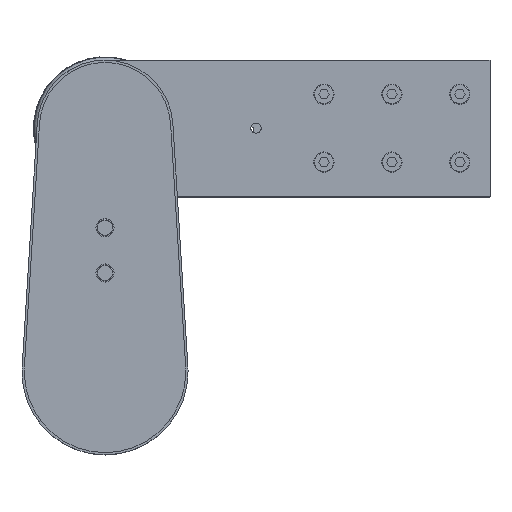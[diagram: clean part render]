
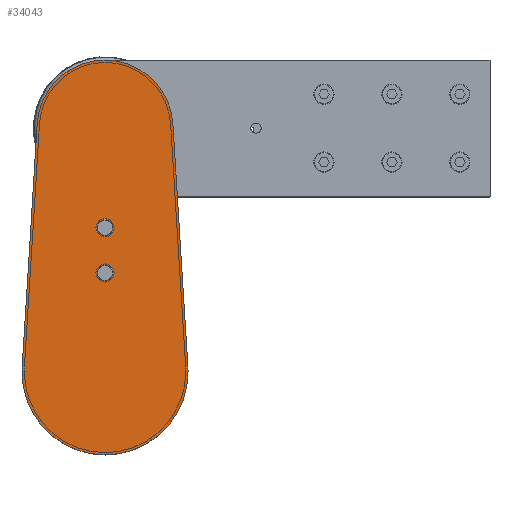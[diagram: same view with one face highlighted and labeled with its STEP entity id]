
A CAD part, top view. The second image highlights one B-rep face of the part: STEP entity #34043.
In plain terms, the highlighted planar face has unit normal (0, 0, 1) as drawn and (0, 0, -1) by its records, which use the part's own axes.
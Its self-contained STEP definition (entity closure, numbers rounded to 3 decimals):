
#1956 = VERTEX_POINT ( 'NONE', #26247 ) ;
#2250 = VERTEX_POINT ( 'NONE', #26394 ) ;
#2280 = VERTEX_POINT ( 'NONE', #26409 ) ;
#2322 = VERTEX_POINT ( 'NONE', #26440 ) ;
#2340 = VERTEX_POINT ( 'NONE', #26458 ) ;
#2368 = VERTEX_POINT ( 'NONE', #26486 ) ;
#2399 = VERTEX_POINT ( 'NONE', #26517 ) ;
#2463 = VERTEX_POINT ( 'NONE', #26581 ) ;
#2468 = VERTEX_POINT ( 'NONE', #26586 ) ;
#2469 = VERTEX_POINT ( 'NONE', #26587 ) ;
#12837 = ORIENTED_EDGE ( 'NONE', *, *, #51650, .F. ) ;
#12838 = ORIENTED_EDGE ( 'NONE', *, *, #51691, .F. ) ;
#12839 = ORIENTED_EDGE ( 'NONE', *, *, #51654, .F. ) ;
#12840 = ORIENTED_EDGE ( 'NONE', *, *, #51692, .F. ) ;
#12841 = ORIENTED_EDGE ( 'NONE', *, *, #51680, .F. ) ;
#12842 = ORIENTED_EDGE ( 'NONE', *, *, #51689, .F. ) ;
#12843 = ORIENTED_EDGE ( 'NONE', *, *, #51667, .F. ) ;
#12844 = ORIENTED_EDGE ( 'NONE', *, *, #51671, .F. ) ;
#12845 = ORIENTED_EDGE ( 'NONE', *, *, #51688, .F. ) ;
#12846 = ORIENTED_EDGE ( 'NONE', *, *, #51684, .F. ) ;
#14701 = DIRECTION ( 'NONE',  ( 0., 0., 1. ) ) ;
#14704 = CARTESIAN_POINT ( 'NONE',  ( 0., 161.5, 0. ) ) ;
#14705 = FACE_BOUND ( 'NONE', #48353, .T. ) ;
#14707 = FACE_BOUND ( 'NONE', #48363, .T. ) ;
#14708 = FACE_OUTER_BOUND ( 'NONE', #48361, .T. ) ;
#14709 = PLANE ( 'NONE',  #25266 ) ;
#14711 = DIRECTION ( 'NONE',  ( 1., 0., 0. ) ) ;
#17232 = CARTESIAN_POINT ( 'NONE',  ( 0., 95.5, 0. ) ) ;
#17234 = DIRECTION ( 'NONE',  ( 0., 0., -1. ) ) ;
#17235 = DIRECTION ( 'NONE',  ( 1., 0., 0. ) ) ;
#17257 = CARTESIAN_POINT ( 'NONE',  ( 0., 65.5, 0. ) ) ;
#17259 = DIRECTION ( 'NONE',  ( 0., 0., -1. ) ) ;
#17260 = DIRECTION ( 'NONE',  ( 1., 0., 0. ) ) ;
#17336 = CARTESIAN_POINT ( 'NONE',  ( 0., 0., 0. ) ) ;
#17338 = DIRECTION ( 'NONE',  ( 0., 0., 1. ) ) ;
#17340 = DIRECTION ( 'NONE',  ( 1., 0., 0. ) ) ;
#17359 = CARTESIAN_POINT ( 'NONE',  ( 0., 0., 0. ) ) ;
#17360 = DIRECTION ( 'NONE',  ( 0., 0., 1. ) ) ;
#17361 = DIRECTION ( 'NONE',  ( 1., 0., 0. ) ) ;
#17412 = CARTESIAN_POINT ( 'NONE',  ( 0., 161.5, 0. ) ) ;
#17414 = DIRECTION ( 'NONE',  ( 0., 0., 1. ) ) ;
#17415 = DIRECTION ( 'NONE',  ( 1., 0., 0. ) ) ;
#17429 = LINE ( 'NONE', #17432, #53639 ) ;
#17432 = CARTESIAN_POINT ( 'NONE',  ( -44.914, 164.286, 0. ) ) ;
#17434 = DIRECTION ( 'NONE',  ( -0.062, -0.998, 0. ) ) ;
#17444 = LINE ( 'NONE', #17446, #53652 ) ;
#17446 = CARTESIAN_POINT ( 'NONE',  ( 44.914, 164.286, 0. ) ) ;
#17454 = CARTESIAN_POINT ( 'NONE',  ( 0., 0., 0. ) ) ;
#17455 = DIRECTION ( 'NONE',  ( 0., 0., 1. ) ) ;
#17456 = DIRECTION ( 'NONE',  ( 1., 0., 0. ) ) ;
#17458 = DIRECTION ( 'NONE',  ( -0.062, 0.998, 0. ) ) ;
#17466 = CARTESIAN_POINT ( 'NONE',  ( 0., 95.5, 0. ) ) ;
#17468 = DIRECTION ( 'NONE',  ( 0., 0., -1. ) ) ;
#17469 = DIRECTION ( 'NONE',  ( 1., 0., 0. ) ) ;
#17472 = CARTESIAN_POINT ( 'NONE',  ( 0., 65.5, 0. ) ) ;
#17473 = DIRECTION ( 'NONE',  ( 0., 0., -1. ) ) ;
#17475 = DIRECTION ( 'NONE',  ( 1., 0., 0. ) ) ;
#25266 = AXIS2_PLACEMENT_3D ( 'NONE', #14704, #14701, #14711 ) ;
#26247 = CARTESIAN_POINT ( 'NONE',  ( 54.894, 3.406, 0. ) ) ;
#26394 = CARTESIAN_POINT ( 'NONE',  ( -3.5, 65.5, 0. ) ) ;
#26409 = CARTESIAN_POINT ( 'NONE',  ( 55., 0., 0. ) ) ;
#26440 = CARTESIAN_POINT ( 'NONE',  ( -55., 0., 0. ) ) ;
#26458 = CARTESIAN_POINT ( 'NONE',  ( -3.5, 95.5, 0. ) ) ;
#26486 = CARTESIAN_POINT ( 'NONE',  ( 3.5, 95.5, 0. ) ) ;
#26517 = CARTESIAN_POINT ( 'NONE',  ( -44.914, 164.286, 0. ) ) ;
#26581 = CARTESIAN_POINT ( 'NONE',  ( -54.894, 3.406, 0. ) ) ;
#26586 = CARTESIAN_POINT ( 'NONE',  ( 44.914, 164.286, 0. ) ) ;
#26587 = CARTESIAN_POINT ( 'NONE',  ( 3.5, 65.5, 0. ) ) ;
#34043 = ADVANCED_FACE ( 'NONE', ( #14705, #14707, #14708 ), #14709, .F. ) ;
#48353 = EDGE_LOOP ( 'NONE', ( #12837, #12838 ) ) ;
#48361 = EDGE_LOOP ( 'NONE', ( #12841, #12842, #12843, #12844, #12845, #12846 ) ) ;
#48363 = EDGE_LOOP ( 'NONE', ( #12839, #12840 ) ) ;
#51650 = EDGE_CURVE ( 'NONE', #2368, #2340, #53524, .T. ) ;
#51654 = EDGE_CURVE ( 'NONE', #2469, #2250, #53533, .T. ) ;
#51667 = EDGE_CURVE ( 'NONE', #2280, #1956, #53578, .T. ) ;
#51671 = EDGE_CURVE ( 'NONE', #2322, #2280, #53589, .T. ) ;
#51680 = EDGE_CURVE ( 'NONE', #2468, #2399, #53626, .T. ) ;
#51684 = EDGE_CURVE ( 'NONE', #2399, #2463, #17429, .T. ) ;
#51688 = EDGE_CURVE ( 'NONE', #2463, #2322, #53648, .T. ) ;
#51689 = EDGE_CURVE ( 'NONE', #1956, #2468, #17444, .T. ) ;
#51691 = EDGE_CURVE ( 'NONE', #2340, #2368, #53657, .T. ) ;
#51692 = EDGE_CURVE ( 'NONE', #2250, #2469, #53659, .T. ) ;
#53524 = CIRCLE ( 'NONE', #53535, 3.5 ) ;
#53533 = CIRCLE ( 'NONE', #53546, 3.5 ) ;
#53535 = AXIS2_PLACEMENT_3D ( 'NONE', #17232, #17234, #17235 ) ;
#53546 = AXIS2_PLACEMENT_3D ( 'NONE', #17257, #17259, #17260 ) ;
#53578 = CIRCLE ( 'NONE', #53587, 55. ) ;
#53587 = AXIS2_PLACEMENT_3D ( 'NONE', #17336, #17338, #17340 ) ;
#53589 = CIRCLE ( 'NONE', #53598, 55. ) ;
#53598 = AXIS2_PLACEMENT_3D ( 'NONE', #17359, #17360, #17361 ) ;
#53626 = CIRCLE ( 'NONE', #53631, 45. ) ;
#53631 = AXIS2_PLACEMENT_3D ( 'NONE', #17412, #17414, #17415 ) ;
#53639 = VECTOR ( 'NONE', #17434, 1000. ) ;
#53648 = CIRCLE ( 'NONE', #53655, 55. ) ;
#53652 = VECTOR ( 'NONE', #17458, 1000. ) ;
#53655 = AXIS2_PLACEMENT_3D ( 'NONE', #17454, #17455, #17456 ) ;
#53657 = CIRCLE ( 'NONE', #53661, 3.5 ) ;
#53659 = CIRCLE ( 'NONE', #53666, 3.5 ) ;
#53661 = AXIS2_PLACEMENT_3D ( 'NONE', #17466, #17468, #17469 ) ;
#53666 = AXIS2_PLACEMENT_3D ( 'NONE', #17472, #17473, #17475 ) ;
